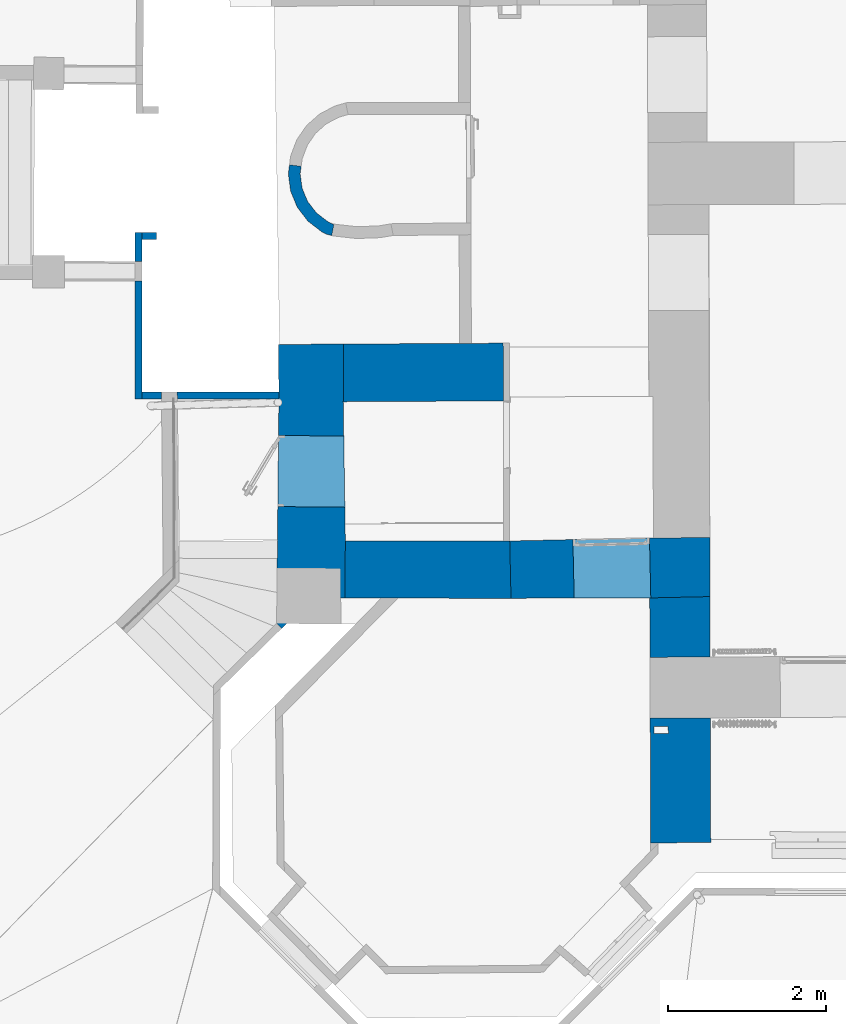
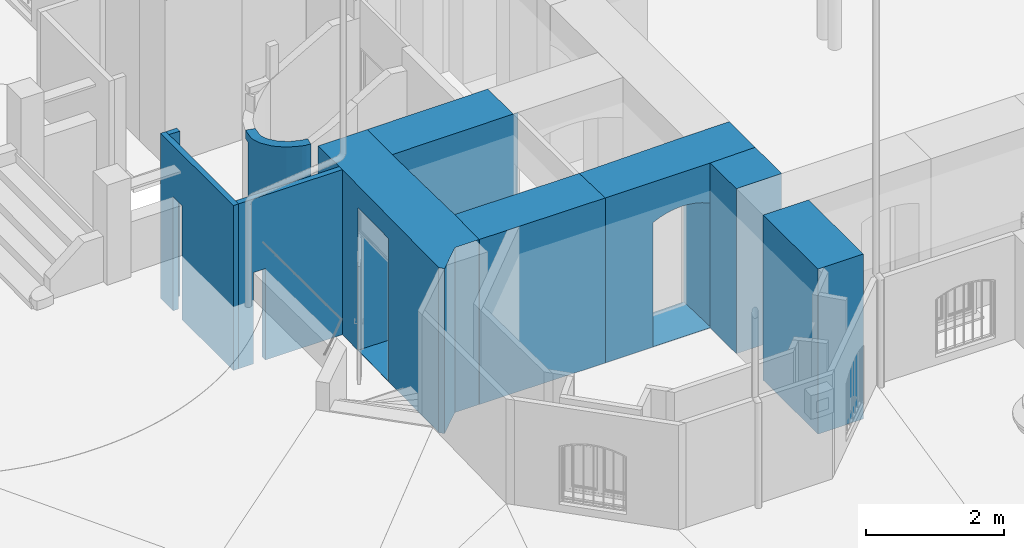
# One storey, part 10 of 133: 10 walls, 2 openings.
"""IFC2X3 building model written with IfcOpenShell, lengths in centimetres."""

from ifc_helpers import new_model, entity, si_unit, converted_unit, point, direction, frame, frame_2d, origin, origin_with_axes, place, context, subcontext, project, spatial, polyline, circle_curve, trimmed, segment, composite_curve, outline, extrude, clip, bounded_halfspace, shape, material, layer, layer_set, layer_usage, type_object, element, save


model = new_model("IFC2X3")

# Units and contexts
model_context = context("Model", 3, precision=0.0001, world=origin(), true_north=direction((0.225632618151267, 0.974212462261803, 0.0)))
body_context = subcontext(model_context, "Body", "Model", "MODEL_VIEW")
footprint_context = subcontext(model_context, "FootPrint", "Model", "MODEL_VIEW")
profile_context = subcontext(model_context, "Profile", "Model", "MODEL_VIEW")
ifc_project = project(units=[si_unit("LENGTHUNIT", "METRE", prefix="CENTI"), si_unit("AREAUNIT", "SQUARE_METRE", prefix="CENTI"), si_unit("VOLUMEUNIT", "CUBIC_METRE", prefix="CENTI"), converted_unit("PLANEANGLEUNIT", "DEGREE", entity("IfcRatioMeasure", 0.0174532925), si_unit("PLANEANGLEUNIT", "RADIAN"), dimensions=[0, 0, 0, 0, 0, 0, 0])], contexts=[model_context])

# Site, building, storey
site_placement = place(None, origin_with_axes())
site = spatial("IfcSite", under=ifc_project, at=site_placement, Name="Default Site", CompositionType="ELEMENT")
building_placement = place(site_placement, origin_with_axes())
building = spatial("IfcBuilding", under=site, at=building_placement, Name="Default Building", CompositionType="ELEMENT")
storey_placement = place(building_placement, frame((0.0, 0.0, -291.400371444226), z_axis=(0.0, 0.0, 1.0), x_axis=(1.0, 0.0, 0.0)))
storey = spatial("IfcBuildingStorey", under=building, at=storey_placement, Name="Rez-de-Jardin", CompositionType="ELEMENT", Elevation=-291.400371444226)

# Walls
ifc_material = material(Name="<aucun>")
ifc_layer_1 = layer(ifc_material, 9.0)
ifc_layer_set_1 = layer_set([ifc_layer_1], Name="default")
ifc_layer_usage_1 = layer_usage(ifc_layer_set_1, "AXIS2", "POSITIVE", -4.5)
wall_type_1 = type_object("IfcWallType", Name="default 90", PredefinedType="NOTDEFINED", material=ifc_layer_set_1)
wall_1_placement = place(storey_placement, frame((-1341.71387121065, -143.900010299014, -1.94511073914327e-11), z_axis=(0.0, 0.0, 1.0), x_axis=(-0.999985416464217, 0.00540063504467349, 0.0)))
element("IfcWallStandardCase", 1, at=wall_1_placement, inside=storey, type_object=wall_type_1, material=ifc_layer_usage_1, Name="Enveloppe 315548", context=body_context, shape_type="SweptSolid", body=[
    extrude(outline(polyline([(17.8312043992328, 4.49999927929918), (-1.77635683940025e-13, 4.50000000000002), (0.0, -4.49999999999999), (17.8798108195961, -4.50000000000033), (17.8312043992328, 4.49999927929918)])), frame((0.0, 0.0, 8.88178419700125e-14), z_axis=(0.0, 0.0, 1.0), x_axis=(1.0, 0.0, 0.0)), (0.0, 0.0, 1.0), 291.413221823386),
])
ifc_layer_2 = layer(ifc_material, 76.0)
ifc_layer_set_2 = layer_set([ifc_layer_2], Name="default")
ifc_layer_usage_2 = layer_usage(ifc_layer_set_2, "AXIS2", "POSITIVE", -38.0)
wall_type_2 = type_object("IfcWallType", Name="default 760", PredefinedType="NOTDEFINED", material=ifc_layer_set_2)
wall_2_placement = place(storey_placement, frame((-679.115659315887, -715.024458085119, -1.94511073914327e-11), z_axis=(0.0, 0.0, 1.0), x_axis=(-0.00403556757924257, 0.999991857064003, 0.0)))
element("IfcWallStandardCase", 2, at=wall_2_placement, inside=storey, type_object=wall_type_2, material=ifc_layer_usage_2, Name="Enveloppe 71762", context=body_context, shape_type="SweptSolid", body=[
    extrude(outline(polyline([(113.609144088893, 38.0), (38.454251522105, 38.0), (38.5542515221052, -38.0672617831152), (115.001573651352, -38.2006318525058), (113.609144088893, 38.0)])), frame((0.0, 0.0, 1.33226762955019e-13), z_axis=(0.0, 0.0, 1.0), x_axis=(1.0, 0.0, 0.0)), (0.0, 0.0, 1.0), 291.413221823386),
])
ifc_layer_usage_3 = layer_usage(ifc_layer_set_2, "AXIS2", "POSITIVE", -38.0)
wall_3_placement = place(storey_placement, frame((-678.323716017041, -911.263731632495, -1.94511073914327e-11), z_axis=(0.0, 0.0, 1.0), x_axis=(-0.00403556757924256, 0.999991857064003, 0.0)))
element("IfcWallStandardCase", 3, at=wall_3_placement, inside=storey, type_object=wall_type_2, material=ifc_layer_usage_3, Name="Enveloppe 64663", context=body_context, shape_type="Clipping", body=[
    clip(extrude(outline(polyline([(157.695067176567, 38.0000000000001), (1.77635683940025e-13, 38.0), (-6.13891160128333e-09, -38.0000015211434), (157.786620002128, -38.0), (157.695067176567, 38.0000000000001)])), origin_with_axes(), (0.0, 0.0, 1.0), 291.413221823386), bounded_halfspace(frame((138.30398471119, 33.2110050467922, 281.400371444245), z_axis=(0.0, 0.0, 1.0), x_axis=(0.999998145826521, 0.00192570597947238, 0.0)), True, frame((138.30398471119, 33.2110050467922, 281.400371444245), z_axis=(0.0, 0.0, 1.0), x_axis=(1.0, 0.0, 0.0)), polyline([(8.88178419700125e-14, 0.0), (8.99998343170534, 0.0173313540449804), (9.03757652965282, -17.9826296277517), (0.0375930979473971, -17.9999609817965), (8.88178419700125e-14, 0.0)]))),
])
ifc_layer_3 = layer(ifc_material, 15.0)
ifc_layer_set_3 = layer_set([ifc_layer_3], Name="default")
ifc_layer_usage_4 = layer_usage(ifc_layer_set_3, "AXIS2", "POSITIVE", -7.5)
wall_type_3 = type_object("IfcWallType", Name="default 150", PredefinedType="NOTDEFINED", material=ifc_layer_set_3)
wall_4_placement = place(storey_placement, frame((-1119.94064985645, -136.291977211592, 0.0), z_axis=(0.0, 0.0, 1.0), x_axis=(-0.921250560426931, 0.388969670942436, 0.0)))
solid_1 = clip(clip(clip(clip(clip(clip(clip(clip(extrude(outline(polyline([(78.2566401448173, -44.4046420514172), (67.0383517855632, -25.2761934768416), (51.2515105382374, -9.70303766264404), (31.9719635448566, 1.25354055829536), (10.5135800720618, 6.84686848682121), (3.93272548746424, 7.25568864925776), (-2.76018883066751, 6.33262572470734), (0.0934716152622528, -7.50580670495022), (8.65706511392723, -8.0377998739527), (26.3262721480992, -12.6434435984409), (42.2013872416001, -21.6652811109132), (55.2005475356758, -34.4884890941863), (64.4378817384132, -50.2391871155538), (69.0618610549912, -67.0813320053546), (83.8863310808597, -64.8564837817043), (78.2566401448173, -44.4046420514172)])), frame((0.0, 0.0, -8.88178419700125e-14), z_axis=(0.0, 0.0, 1.0), x_axis=(1.0, 0.0, 0.0)), (0.0, 0.0, 1.0), 187.697835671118), bounded_halfspace(frame((81.3103151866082, -55.4981957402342, 155.7), z_axis=(0.0, 0.0, 1.0), x_axis=(0.265394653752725, -0.964139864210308, 0.0)), True, frame((81.3103151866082, -55.4981957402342, 155.7), z_axis=(0.0, 0.0, 1.0), x_axis=(1.0, 0.0, 0.0)), polyline([(-0.12463469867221, -0.0336423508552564), (0.0, -8.88178419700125e-14), (2.00725550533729, -7.29206494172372), (-0.12463469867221, -0.0336423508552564)]))), bounded_halfspace(frame((83.88633108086, -64.8564837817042, 155.7), z_axis=(0.0, 0.0, 1.0), x_axis=(-0.988924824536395, -0.14841728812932, 0.0)), True, frame((83.88633108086, -64.8564837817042, 155.7), z_axis=(0.0, 0.0, 1.0), x_axis=(1.0, 0.0, 0.0)), polyline([(-10.1808369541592, 7.30553659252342), (-2.70065059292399, 9.32464569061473), (-0.568760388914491, 2.06622309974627), (1.77635683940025e-13, -8.88178419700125e-14), (-0.773898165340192, -0.116146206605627), (-10.1808369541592, 7.30553659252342)]))), bounded_halfspace(frame((66.9462283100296, -59.3754599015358, 155.7), z_axis=(0.0, 0.0, 1.0), x_axis=(0.965446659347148, 0.260600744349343, 0.0)), True, frame((66.9462283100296, -59.3754599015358, 155.7), z_axis=(0.0, 0.0, 1.0), x_axis=(1.0, 0.0, 0.0)), polyline([(1.77635683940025e-13, 0.0), (6.75926581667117, 1.82451271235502), (16.1662046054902, -5.59717008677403), (2.11563274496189, -7.70587210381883), (1.77635683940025e-13, 0.0)]))), bounded_halfspace(frame((78.2566401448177, -44.4046420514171, 170.474063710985), z_axis=(-0.00129714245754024, 0.00307220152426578, -0.99999443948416), x_axis=(-0.265393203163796, 0.964134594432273, 0.00330628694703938)), True, frame((78.2566401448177, -44.4046420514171, 170.474063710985), z_axis=(0.0, 0.0, 1.0), x_axis=(1.0, 0.0, 0.0)), polyline([(-13.8187584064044, -5.83454506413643), (-4.55114601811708, -13.1463051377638), (3.05367504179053, -11.0935536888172), (1.77635683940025e-13, 0.0), (-13.8187584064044, -5.83454506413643)]))), bounded_halfspace(frame((75.5385071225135, -39.7699182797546, 170.491748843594), z_axis=(-0.00147246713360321, 0.00295220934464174, -0.999994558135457), x_axis=(-0.894867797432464, -0.446331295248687, 0.0)), True, frame((75.5385071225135, -39.7699182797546, 170.491748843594), z_axis=(0.0, 0.0, 1.0), x_axis=(1.0, 0.0, 0.0)), polyline([(-13.3387834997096, -6.65295648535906), (2.71813302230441, -4.6347237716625), (0.0, 0.0), (-13.3387834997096, -6.65295648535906)]))), bounded_halfspace(frame((51.2515105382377, -9.70303766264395, 177.641192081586), z_axis=(-0.144990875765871, 0.109693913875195, -0.983333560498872), x_axis=(-0.603341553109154, -0.797482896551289, 0.0)), True, frame((51.2515105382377, -9.70303766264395, 177.641192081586), z_axis=(0.0, 0.0, 1.0), x_axis=(1.0, 0.0, 0.0)), polyline([(-9.05012329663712, -11.9622434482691), (15.7868412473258, -15.5731558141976), (0.0, 0.0), (-9.05012329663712, -11.9622434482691)]))), bounded_halfspace(frame((31.9719635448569, 1.25354055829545, 181.706169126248), z_axis=(-0.168441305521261, 0.0684297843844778, -0.983333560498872), x_axis=(-0.376379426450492, -0.926465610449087, 0.0)), True, frame((31.9719635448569, 1.25354055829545, 181.706169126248), z_axis=(0.0, 0.0, 1.0), x_axis=(1.0, 0.0, 0.0)), polyline([(-5.64569139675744, -13.8969841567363), (19.2795469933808, -10.9565782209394), (0.0, 0.0), (-5.64569139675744, -13.8969841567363)]))), bounded_halfspace(frame((10.5135800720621, 6.8468684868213, 185.77114617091), z_axis=(-0.180412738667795, 0.0225022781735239, -0.983333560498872), x_axis=(-0.123767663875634, -0.992311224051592, -1.48029736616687e-15)), True, frame((10.5135800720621, 6.8468684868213, 185.77114617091), z_axis=(0.0, 0.0, 1.0), x_axis=(1.0, 0.0, 0.0)), polyline([(-1.85651495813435, -14.8846683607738), (21.4583834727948, -5.59332792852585), (1.77635683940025e-13, 0.0), (-1.85651495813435, -14.8846683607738)])))
solid_2 = clip(clip(clip(clip(clip(clip(clip(clip(solid_1, bounded_halfspace(frame((0.0, -7.05252900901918, 187.697835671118), z_axis=(-0.1802554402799, 0.0, -0.983619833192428), x_axis=(-0.974692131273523, -0.134426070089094, 0.178619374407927)), True, frame((0.0, -7.05252900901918, 187.697835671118), z_axis=(0.0, 0.0, 1.0), x_axis=(1.0, 0.0, 0.0)), polyline([(0.0, -8.88178419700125e-14), (0.0720105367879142, -0.34920515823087), (10.5135800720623, 13.8993974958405), (3.93272548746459, 14.308217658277), (5.32907051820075e-13, 13.7658301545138), (0.0, -8.88178419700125e-14)]))), bounded_halfspace(frame((0.0720105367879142, -7.40173416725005, 187.684639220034), z_axis=(-0.215571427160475, 0.0268875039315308, -0.97611783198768), x_axis=(0.123767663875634, 0.992311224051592, 2.96059473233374e-15)), True, frame((0.0720105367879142, -7.40173416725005, 187.684639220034), z_axis=(0.0, 0.0, 1.0), x_axis=(1.0, 0.0, 0.0)), polyline([(0.0, 0.0), (0.0214610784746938, -0.104072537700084), (8.58505457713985, -0.636065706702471), (10.4415695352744, 14.2486026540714), (0.0, 0.0)]))), bounded_halfspace(frame((8.65706511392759, -8.03779987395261, 185.77114617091), z_axis=(-0.202976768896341, 0.082459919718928, -0.975705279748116), x_axis=(0.376379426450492, 0.926465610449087, 0.0)), True, frame((8.65706511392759, -8.03779987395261, 185.77114617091), z_axis=(0.0, 0.0, 1.0), x_axis=(1.0, 0.0, 0.0)), polyline([(1.77635683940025e-13, 8.88178419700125e-14), (17.6692070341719, -4.60564372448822), (23.3148984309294, 9.29134043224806), (1.77635683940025e-13, 8.88178419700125e-14)]))), bounded_halfspace(frame((26.3262721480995, -12.6434435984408, 181.706169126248), z_axis=(-0.174718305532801, 0.132184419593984, -0.975705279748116), x_axis=(0.603341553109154, 0.797482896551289, 1.4802973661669e-15)), True, frame((26.3262721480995, -12.6434435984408, 181.706169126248), z_axis=(0.0, 0.0, 1.0), x_axis=(1.0, 0.0, 0.0)), polyline([(0.0, 0.0), (15.8751150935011, -9.02183751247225), (24.9252383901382, 2.94040593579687), (0.0, 0.0)]))), bounded_halfspace(frame((42.2013872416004, -21.6652811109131, 177.641192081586), z_axis=(-0.134553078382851, 0.172900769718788, -0.975705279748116), x_axis=(0.78918694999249, 0.614153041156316, 0.0)), True, frame((42.2013872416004, -21.6652811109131, 177.641192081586), z_axis=(0.0, 0.0, 1.0), x_axis=(1.0, 0.0, 0.0)), polyline([(1.77635683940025e-13, 0.0), (12.9991602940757, -12.8232079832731), (24.8369645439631, -3.61091236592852), (1.77635683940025e-13, 0.0)]))), bounded_halfspace(frame((55.2005475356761, -34.4884890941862, 173.576215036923), z_axis=(-0.0973336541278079, 0.195148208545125, -0.975932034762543), x_axis=(0.894867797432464, 0.446331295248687, 2.97929067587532e-15)), True, frame((55.2005475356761, -34.4884890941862, 173.576215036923), z_axis=(0.0, 0.0, 1.0), x_axis=(1.0, 0.0, 0.0)), polyline([(0.0, 0.0), (6.9991760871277, -11.9343856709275), (20.3379595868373, -5.28142918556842), (0.0, 0.0)]))), bounded_halfspace(frame((64.4378817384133, -50.2391871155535, 170.474063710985), z_axis=(-0.000555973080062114, 0.00401161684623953, -0.999991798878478), x_axis=(0.965446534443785, 0.26060071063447, 0.000508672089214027)), True, frame((64.4378817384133, -50.2391871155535, 170.474063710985), z_axis=(0.0, 0.0, 1.0), x_axis=(1.0, 0.0, 0.0)), polyline([(0.0, 0.0), (2.50834657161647, -9.13627278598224), (9.26761238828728, -7.31176007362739), (0.0, 0.0)]))), bounded_halfspace(frame((55.2005475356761, -34.4884890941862, 173.576215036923), z_axis=(-0.111814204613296, 0.143681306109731, -0.983286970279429), x_axis=(-0.497574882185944, 0.848421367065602, 0.180555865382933)), True, frame((55.2005475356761, -34.4884890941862, 173.576215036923), z_axis=(0.0, 0.0, 1.0), x_axis=(1.0, 0.0, 0.0)), polyline([(0.0, 0.0), (20.3379595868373, -5.28142918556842), (11.8378042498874, 9.2122956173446), (0.0, 0.0)])))
element("IfcWallStandardCase", 4, at=wall_4_placement, inside=storey, type_object=wall_type_3, material=ifc_layer_usage_4, Name="Enveloppe courbe 78962", context=body_context, shape_type="Clipping", body=[
    clip(clip(clip(clip(solid_2, bounded_halfspace(frame((62.1997236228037, -46.4228747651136, 170.491748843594), z_axis=(-0.00156825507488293, 0.0037143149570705, -0.99999187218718), x_axis=(0.921250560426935, 0.388969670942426, 0.0)), True, frame((62.1997236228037, -46.4228747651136, 170.491748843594), z_axis=(0.0, 0.0, 1.0), x_axis=(1.0, 0.0, 0.0)), polyline([(1.77635683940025e-13, -8.88178419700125e-14), (2.23815811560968, -3.81631235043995), (16.0569165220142, 2.01823271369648), (1.77635683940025e-13, -8.88178419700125e-14)]))), bounded_halfspace(frame((81.185680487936, -55.5318380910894, 170.436079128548), z_axis=(-0.00129714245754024, 0.00307220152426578, -0.99999443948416), x_axis=(0.281807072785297, -0.959465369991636, -0.00331323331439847)), True, frame((81.185680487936, -55.5318380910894, 170.436079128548), z_axis=(0.0, 0.0, 1.0), x_axis=(1.0, 0.0, 0.0)), polyline([(0.0, -8.88178419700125e-14), (2.1318902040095, -7.25842259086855), (0.12463469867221, 0.0336423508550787), (0.0, -8.88178419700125e-14)]))), bounded_halfspace(frame((73.7054941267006, -57.5509471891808, 170.43957890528), z_axis=(-0.00129714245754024, 0.00307220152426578, -0.99999443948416), x_axis=(-0.281807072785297, 0.959465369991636, 0.00331323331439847)), True, frame((73.7054941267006, -57.5509471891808, 170.43957890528), z_axis=(0.0, 0.0, 1.0), x_axis=(1.0, 0.0, 0.0)), polyline([(1.77635683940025e-13, 0.0), (9.4069387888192, -7.42168279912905), (10.1808369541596, -7.30553659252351), (9.6120765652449, -5.23931349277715), (7.4801863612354, 2.01910909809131), (1.77635683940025e-13, 0.0)]))), bounded_halfspace(frame((73.7054941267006, -57.5509471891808, 170.43957890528), z_axis=(-0.000555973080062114, 0.00401161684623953, -0.999991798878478), x_axis=(0.98892482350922, 0.148417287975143, 4.55780864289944e-05)), True, frame((73.7054941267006, -57.5509471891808, 170.43957890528), z_axis=(0.0, 0.0, 1.0), x_axis=(1.0, 0.0, 0.0)), polyline([(-6.75926581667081, -1.82451271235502), (-4.6436330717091, -9.53038481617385), (9.4069387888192, -7.42168279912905), (1.77635683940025e-13, 0.0), (-6.75926581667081, -1.82451271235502)]))),
])
ifc_layer_4 = layer(ifc_material, 73.0)
ifc_layer_set_4 = layer_set([ifc_layer_4], Name="default")
ifc_layer_usage_5 = layer_usage(ifc_layer_set_4, "AXIS2", "POSITIVE", -36.5)
wall_type_4 = type_object("IfcWallType", Name="default 730", PredefinedType="NOTDEFINED", material=ifc_layer_set_4)
wall_5_placement = place(storey_placement, frame((-1186.91923913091, -317.353697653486, -1.94511073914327e-11), z_axis=(0.0, 0.0, 1.0), x_axis=(0.999984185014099, 0.00562403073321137, 0.0)))
element("IfcWallStandardCase", 5, at=wall_5_placement, inside=storey, type_object=wall_type_4, material=ifc_layer_usage_5, Name="Enveloppe 70969", context=body_context, shape_type="SweptSolid", body=[
    extrude(outline(polyline([(228.791003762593, 36.5008683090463), (82.1556197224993, 36.5), (82.1556197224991, 9.05612488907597), (81.4281837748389, -36.5), (228.790998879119, -36.5), (292.052431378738, -36.5), (292.052605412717, -36.4690557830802), (284.252645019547, -36.4403904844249), (284.252309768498, 36.4999999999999), (228.791003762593, 36.5008683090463)])), frame((0.0, 0.0, 8.88178419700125e-14), z_axis=(0.0, 0.0, 1.0), x_axis=(1.0, 0.0, 0.0)), (0.0, 0.0, 1.0), 291.413221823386),
])

# Wall, opening
ifc_layer_5 = layer(ifc_material, 72.5)
ifc_layer_set_5 = layer_set([ifc_layer_5], Name="default")
ifc_layer_usage_6 = layer_usage(ifc_layer_set_5, "AXIS2", "POSITIVE", -36.25)
wall_type_5 = type_object("IfcWallType", Name="default 725", PredefinedType="NOTDEFINED", material=ifc_layer_set_5)
wall_6_placement = place(storey_placement, frame((-893.85052616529, -565.769941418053, -1.94511073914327e-11), z_axis=(0.0, 0.0, 1.0), x_axis=(0.999751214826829, 0.0223048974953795, 0.0)))
wall_6 = element("IfcWallStandardCase", 6, at=wall_6_placement, inside=storey, type_object=wall_type_5, material=ifc_layer_usage_6, Name="Enveloppe 65039", context=body_context, shape_type="SweptSolid", body=[
    extrude(outline(polyline([(-1.88448640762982, 36.2500000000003), (2.23631392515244e-05, 36.2052193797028), (2.23631394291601e-05, -36.2500004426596), (175.434336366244, -39.7225765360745), (251.647689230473, -39.7225765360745), (253.140624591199, 34.8554252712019), (176.822598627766, 36.2500000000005), (-1.88448640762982, 36.2500000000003)])), frame((0.0, 0.0, 4.44089209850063e-14), z_axis=(0.0, 0.0, 1.0), x_axis=(1.0, 0.0, 0.0)), (0.0, 0.0, 1.0), 291.413221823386),
])
opening_1_placement = place(wall_6_placement, frame((79.8966849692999, 2.27373675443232e-13, 0.601514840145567), z_axis=(0.0, 0.0, 1.0), x_axis=(-1.0, -1.36696209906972e-15, 0.0)))
cartesian_point_1 = entity("IfcCartesianPoint", [0.0, 0.0, 219.0])
cartesian_point_2 = entity("IfcCartesianPoint", [-96.9259136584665, 0.0, 219.0])
cartesian_point_3 = entity("IfcCartesianPoint", [-96.9259136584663, -36.2500000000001])
element("IfcOpeningElement", 7, at=opening_1_placement, cuts=wall_6, Name="4294966338_12", ObjectType="Opening", shapes=[
    shape(body_context, "Body", "SweptSolid", [extrude(outline(composite_curve([segment(polyline([(0.0, 219.0), (0.0, 0.0), (96.9259136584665, 0.0), (96.9259136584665, 219.0)]), True, "CONTINUOUS"), segment(trimmed(circle_curve(frame_2d((48.4629568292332, 126.584771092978), x_axis=(1.0, 0.0)), 104.351486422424), [point((96.9259136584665, 219.0))], [point((0.0, 219.0))], True, "CARTESIAN"), True, "CONTINUOUS")], self_intersect=False)), frame((0.0, -46.2500000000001, 0.0), z_axis=(0.0, 1.0, 0.0), x_axis=(-1.0, 0.0, 0.0)), (0.0, 0.0, 1.0), 96.0011625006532)]),
    shape(profile_context, "Profile", "GeometricCurveSet", [entity("IfcGeometricCurveSet", [entity("IfcCompositeCurve", [entity("IfcCompositeCurveSegment", "CONTINUOUS", True, entity("IfcPolyline", [cartesian_point_1, entity("IfcCartesianPoint", [0.0, 0.0, 0.0]), entity("IfcCartesianPoint", [-96.9259136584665, 0.0, 0.0]), cartesian_point_2])), entity("IfcCompositeCurveSegment", "CONTINUOUS", True, entity("IfcTrimmedCurve", entity("IfcCircle", entity("IfcAxis2Placement3D", entity("IfcCartesianPoint", [-48.4629568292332, -8.88178419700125e-14, 126.584771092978]), entity("IfcDirection", [0.0, 1.0, 7.44101254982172e-15]), entity("IfcDirection", [1.0, 0.0, 0.0])), 104.351486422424), [cartesian_point_2], [cartesian_point_1], True, "CARTESIAN"))], False)])]),
    shape(footprint_context, "FootPrint", "GeometricCurveSet", [entity("IfcGeometricCurveSet", [entity("IfcPolyline", [cartesian_point_3, entity("IfcCartesianPoint", [3.5527136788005e-13, -36.25]), entity("IfcCartesianPoint", [-1.77635683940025e-13, 37.831488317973]), entity("IfcCartesianPoint", [-96.9259136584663, 39.7500560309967]), cartesian_point_3])])]),
])

# Wall
ifc_layer_usage_7 = layer_usage(ifc_layer_set_5, "AXIS2", "POSITIVE", -36.25)
wall_7_placement = place(storey_placement, frame((-894.710966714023, -565.823690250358, -1.94511073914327e-11), z_axis=(0.0, 0.0, 1.0), x_axis=(-0.999998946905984, 0.00145127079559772, 0.0)))
element("IfcWallStandardCase", 8, at=wall_7_placement, inside=storey, type_object=wall_type_5, material=ifc_layer_usage_7, Name="Enveloppe 64999", context=body_context, shape_type="SweptSolid", body=[
    extrude(outline(polyline([(208.598273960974, 36.2500000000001), (116.101151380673, 36.2500000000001), (1.02347142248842, 36.25), (-1.72153115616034, 36.1847719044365), (-0.00030063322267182, -36.2500000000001), (116.101151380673, -36.25), (207.953643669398, -36.25), (208.598273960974, 36.2500000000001)])), frame((0.0, 0.0, 1.33226762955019e-13), z_axis=(0.0, 0.0, 1.0), x_axis=(1.0, 0.0, 0.0)), (0.0, 0.0, 1.0), 291.413221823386),
])

# Wall, opening
ifc_layer_6 = layer(ifc_material, 81.0)
ifc_layer_set_6 = layer_set([ifc_layer_6], Name="default")
ifc_layer_usage_8 = layer_usage(ifc_layer_set_6, "AXIS2", "POSITIVE", -40.5)
wall_type_6 = type_object("IfcWallType", Name="default 810", PredefinedType="NOTDEFINED", material=ifc_layer_set_6)
wall_8_placement = place(storey_placement, frame((-1148.40355708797, -563.795043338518, -1.94511073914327e-11), z_axis=(0.0, 0.0, 1.0), x_axis=(0.0103423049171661, 0.999946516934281, 0.0)))
wall_8 = element("IfcWallStandardCase", 9, at=wall_8_placement, inside=storey, type_object=wall_type_6, material=ifc_layer_usage_8, Name="Enveloppe 64975", context=body_context, shape_type="SweptSolid", body=[
    extrude(outline(polyline([(-70.4569082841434, 40.4999999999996), (-76.8181352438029, 34.1333060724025), (-37.8694483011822, -4.7819363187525), (-37.5080077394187, -45.4322766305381), (34.9948580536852, -45.4322766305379), (210.834548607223, -40.9381653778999), (256.396480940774, -40.9381653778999), (283.836857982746, -40.5000000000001), (282.525171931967, 41.6451479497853), (222.268009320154, 40.6829672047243), (222.269901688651, 40.500003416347), (-70.4569082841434, 40.4999999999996)])), frame((0.0, 0.0, 8.88178419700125e-14), z_axis=(0.0, 0.0, 1.0), x_axis=(1.0, 0.0, 0.0)), (0.0, 0.0, 1.0), 291.413221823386),
])
opening_2_placement = place(wall_8_placement, frame((77.4066246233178, 2.27373675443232e-13, 0.601514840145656), z_axis=(0.0, 0.0, 1.0), x_axis=(1.0, 6.86950496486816e-16, 0.0)))
cartesian_point_4 = entity("IfcCartesianPoint", [0.0, -1.77635683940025e-13, 252.0])
cartesian_point_5 = entity("IfcCartesianPoint", [90.0, 40.4999999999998])
element("IfcOpeningElement", 10, at=opening_2_placement, cuts=wall_8, Name="4294966337_11", ObjectType="Opening", shapes=[
    shape(body_context, "Body", "SweptSolid", [extrude(outline(polyline([(0.0, 252.0), (0.0, 4.44089209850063e-14), (90.0, 4.44089209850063e-14), (90.0, 252.0), (0.0, 252.0)])), frame((0.0, 56.3266753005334, 0.0), z_axis=(0.0, -1.0, 0.0), x_axis=(1.0, 0.0, 0.0)), (0.0, 0.0, 1.0), 106.826675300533)]),
    shape(profile_context, "Profile", "GeometricCurveSet", [entity("IfcGeometricCurveSet", [entity("IfcPolyline", [cartesian_point_4, entity("IfcCartesianPoint", [0.0, -1.77635683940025e-13, 4.44089209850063e-14]), entity("IfcCartesianPoint", [89.9999999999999, -1.77635683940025e-13, 4.44089209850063e-14]), entity("IfcCartesianPoint", [90.0, -1.77635683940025e-13, 252.0]), cartesian_point_4])])]),
    shape(footprint_context, "FootPrint", "GeometricCurveSet", [entity("IfcGeometricCurveSet", [entity("IfcPolyline", [cartesian_point_5, entity("IfcCartesianPoint", [-8.88178419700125e-14, 40.4999999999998]), entity("IfcCartesianPoint", [0.0, -44.3483165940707]), entity("IfcCartesianPoint", [89.9999999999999, -42.0480963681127]), cartesian_point_5])])]),
])

# Walls
ifc_layer_usage_9 = layer_usage(ifc_layer_set_1, "AXIS2", "POSITIVE", -4.5)
wall_type_7 = type_object("IfcWallType", Name="default 90", PredefinedType="NOTDEFINED", material=ifc_layer_set_1)
wall_9_placement = place(storey_placement, frame((-1364.07223940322, -349.792781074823, -1.94511073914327e-11), z_axis=(0.0, 0.0, 1.0), x_axis=(1.48272692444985e-05, 0.999999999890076, 0.0)))
element("IfcWallStandardCase", 11, at=wall_9_placement, inside=storey, type_object=wall_type_7, material=ifc_layer_usage_9, Name="Enveloppe 311702", context=body_context, shape_type="Clipping", body=[
    clip(clip(extrude(outline(polyline([(0.00271839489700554, 4.49999999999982), (-0.0133961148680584, -4.50013344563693), (161.432261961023, -4.50072738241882), (210.489334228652, -4.49999999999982), (210.537807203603, 4.49999999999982), (161.43212851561, 4.49927189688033), (0.00271839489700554, 4.49999999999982)])), frame((0.0, 0.0, 4.44089209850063e-14), z_axis=(0.0, 0.0, 1.0), x_axis=(1.0, 0.0, 0.0)), (0.0, 0.0, 1.0), 291.413221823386), bounded_halfspace(frame((161.432128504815, 4.50000000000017, 201.400371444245), z_axis=(0.0, 0.0, 1.0), x_axis=(2.46745440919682e-15, -1.0, 0.0)), True, frame((161.432128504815, 4.50000000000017, 201.400371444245), z_axis=(0.0, 0.0, 1.0), x_axis=(1.0, 0.0, 0.0)), polyline([(-12.5249926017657, -9.00000000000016), (-12.4753871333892, 0.0), (-2.22044604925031e-14, -1.77635683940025e-13), (-4.44089209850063e-14, -8.99999999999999), (-12.5249926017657, -9.00000000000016)]))), bounded_halfspace(frame((161.432128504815, 4.50000000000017, 201.400371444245), z_axis=(0.0, 0.0, 1.0), x_axis=(1.0, -8.21572830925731e-15, 0.0)), True, frame((161.432128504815, 4.50000000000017, 201.400371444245), z_axis=(0.0, 0.0, 1.0), x_axis=(1.0, 0.0, 0.0)), polyline([(-6.66133814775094e-14, -8.99999999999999), (-2.22044604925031e-14, -1.77635683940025e-13), (12.5249926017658, 0.0), (12.4753871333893, -9.00000000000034), (-6.66133814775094e-14, -8.99999999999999)]))),
])
ifc_layer_usage_10 = layer_usage(ifc_layer_set_1, "AXIS2", "POSITIVE", -4.5)
wall_10_placement = place(storey_placement, frame((-1186.60874421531, -345.618492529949, -1.94511073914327e-11), z_axis=(0.0, 0.0, 1.0), x_axis=(-0.999998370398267, 0.0018053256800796, 0.0)))
element("IfcWallStandardCase", 12, at=wall_10_placement, inside=storey, type_object=wall_type_7, material=ifc_layer_usage_10, Name="Enveloppe 311761", context=body_context, shape_type="Clipping", body=[
    clip(clip(clip(clip(extrude(outline(polyline([(138.67861810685, 4.50000000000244), (0.0788274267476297, 4.49999999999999), (0.00199169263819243, -4.50033032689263), (138.67861810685, -4.49999999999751), (172.971767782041, -4.49999999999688), (172.955519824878, 4.4999997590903), (138.67861810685, 4.50000000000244)])), frame((0.0, 0.0, 4.44089209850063e-14), z_axis=(0.0, 0.0, 1.0), x_axis=(1.0, 0.0, 0.0)), (0.0, 0.0, 1.0), 291.413221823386), bounded_halfspace(frame((138.67861810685, 4.50000000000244, 161.400371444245), z_axis=(0.0, 0.0, 1.0), x_axis=(-4.52220726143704e-15, -1.0, 0.0)), True, frame((138.67861810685, 4.50000000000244, 161.400371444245), z_axis=(0.0, 0.0, 1.0), x_axis=(1.0, 0.0, 0.0)), polyline([(-10.0537829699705, -1.77635683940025e-13), (-1.77635683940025e-13, 0.0), (3.5527136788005e-13, -6.48140969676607), (-9.97886602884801, -6.35043229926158), (-10.0537829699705, -1.77635683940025e-13)]))), bounded_halfspace(frame((128.731009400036, -4.49999999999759, 161.400371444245), z_axis=(0.0, 0.0, 1.0), x_axis=(-0.0117963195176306, 0.999930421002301, 0.0)), True, frame((128.731009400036, -4.49999999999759, 161.400371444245), z_axis=(0.0, 0.0, 1.0), x_axis=(1.0, 0.0, 0.0)), polyline([(-0.0312573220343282, 2.64956770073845), (9.94760870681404, 2.51859030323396), (9.94760870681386, 8.88178419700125e-14), (0.0, 4.44089209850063e-14), (-0.0312573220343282, 2.64956770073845)]))), bounded_halfspace(frame((138.67861810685, -4.49999999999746, 161.400371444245), z_axis=(0.0, 0.0, 1.0), x_axis=(-1.15419826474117e-14, 1.0, 0.0)), True, frame((138.67861810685, -4.49999999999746, 161.400371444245), z_axis=(0.0, 0.0, 1.0), x_axis=(1.0, 0.0, 0.0)), polyline([(0.0, 0.0), (1.77635683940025e-13, 2.51859030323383), (10.0256232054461, 2.38699919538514), (10.0537829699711, 1.77635683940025e-13), (0.0, 0.0)]))), bounded_halfspace(frame((148.626226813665, 4.5000000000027, 161.400371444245), z_axis=(0.0, 0.0, 1.0), x_axis=(0.011796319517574, -0.999930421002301, 0.0)), True, frame((148.626226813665, 4.5000000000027, 161.400371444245), z_axis=(0.0, 0.0, 1.0), x_axis=(1.0, 0.0, 0.0)), polyline([(-9.94760870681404, -6.48140969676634), (-9.94760870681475, -2.66453525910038e-13), (0.0, 0.0), (0.0780144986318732, -6.61300080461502), (-9.94760870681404, -6.48140969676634)]))),
])

save(model, "model.ifc")
